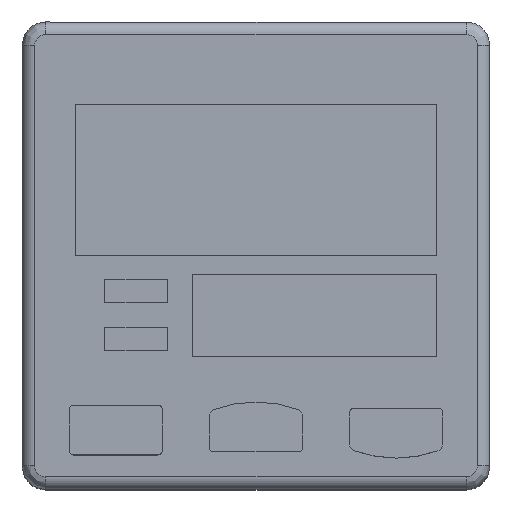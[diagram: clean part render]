
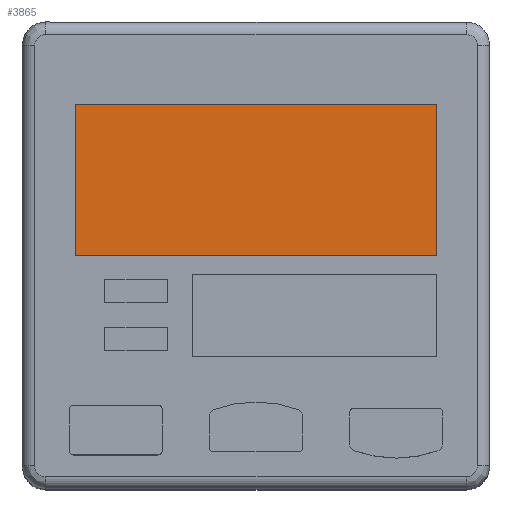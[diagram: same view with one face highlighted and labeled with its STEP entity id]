
A CAD part, top view. The second image highlights one B-rep face of the part: STEP entity #3865.
In plain terms, the highlighted planar face has unit normal (0, 0, 1).
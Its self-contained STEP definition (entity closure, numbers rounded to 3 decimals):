
#375 = DIRECTION ( 'NONE',  ( -1., 0., 0. ) ) ;
#376 = VECTOR ( 'NONE', #375, 1000. ) ;
#377 = CARTESIAN_POINT ( 'NONE',  ( 0., 9.7, -0.1 ) ) ;
#378 = LINE ( 'NONE', #377, #376 ) ;
#381 = DIRECTION ( 'NONE',  ( 0., 1., 0. ) ) ;
#382 = VECTOR ( 'NONE', #381, 1000. ) ;
#383 = CARTESIAN_POINT ( 'NONE',  ( 11.6, 4.85, -0.1 ) ) ;
#385 = LINE ( 'NONE', #383, #382 ) ;
#387 = DIRECTION ( 'NONE',  ( 1., 0., 0. ) ) ;
#388 = VECTOR ( 'NONE', #387, 1000. ) ;
#389 = CARTESIAN_POINT ( 'NONE',  ( 11.6, 9.7, -0.1 ) ) ;
#391 = CARTESIAN_POINT ( 'NONE',  ( 0., 0., -0.1 ) ) ;
#392 = LINE ( 'NONE', #391, #388 ) ;
#402 = CARTESIAN_POINT ( 'NONE',  ( 11.6, 0., -0.1 ) ) ;
#405 = DIRECTION ( 'NONE',  ( 1., 0., 0. ) ) ;
#407 = DIRECTION ( 'NONE',  ( 0., 0., 1. ) ) ;
#409 = FACE_OUTER_BOUND ( 'NONE', #3852, .T. ) ;
#410 = CARTESIAN_POINT ( 'NONE',  ( -11.6, 0., -0.1 ) ) ;
#411 = PLANE ( 'NONE',  #416 ) ;
#412 = CARTESIAN_POINT ( 'NONE',  ( -11.6, 9.7, -0.1 ) ) ;
#413 = CARTESIAN_POINT ( 'NONE',  ( -11.6, 0., -0.1 ) ) ;
#416 = AXIS2_PLACEMENT_3D ( 'NONE', #413, #407, #405 ) ;
#2157 = EDGE_CURVE ( 'NONE', #3860, #3862, #5455, .T. ) ;
#3765 = ORIENTED_EDGE ( 'NONE', *, *, #3828, .T. ) ;
#3824 = EDGE_CURVE ( 'NONE', #3862, #3872, #392, .T. ) ;
#3826 = VERTEX_POINT ( 'NONE', #389 ) ;
#3828 = EDGE_CURVE ( 'NONE', #3872, #3826, #385, .T. ) ;
#3835 = EDGE_CURVE ( 'NONE', #3826, #3860, #378, .T. ) ;
#3852 = EDGE_LOOP ( 'NONE', ( #3869, #3867, #3765, #3879 ) ) ;
#3860 = VERTEX_POINT ( 'NONE', #412 ) ;
#3862 = VERTEX_POINT ( 'NONE', #410 ) ;
#3865 = ADVANCED_FACE ( 'NONE', ( #409 ), #411, .T. ) ;
#3867 = ORIENTED_EDGE ( 'NONE', *, *, #3824, .T. ) ;
#3869 = ORIENTED_EDGE ( 'NONE', *, *, #2157, .T. ) ;
#3872 = VERTEX_POINT ( 'NONE', #402 ) ;
#3879 = ORIENTED_EDGE ( 'NONE', *, *, #3835, .T. ) ;
#5447 = DIRECTION ( 'NONE',  ( 0., -1., 0. ) ) ;
#5448 = VECTOR ( 'NONE', #5447, 1000. ) ;
#5451 = CARTESIAN_POINT ( 'NONE',  ( -11.6, 4.85, -0.1 ) ) ;
#5455 = LINE ( 'NONE', #5451, #5448 ) ;
